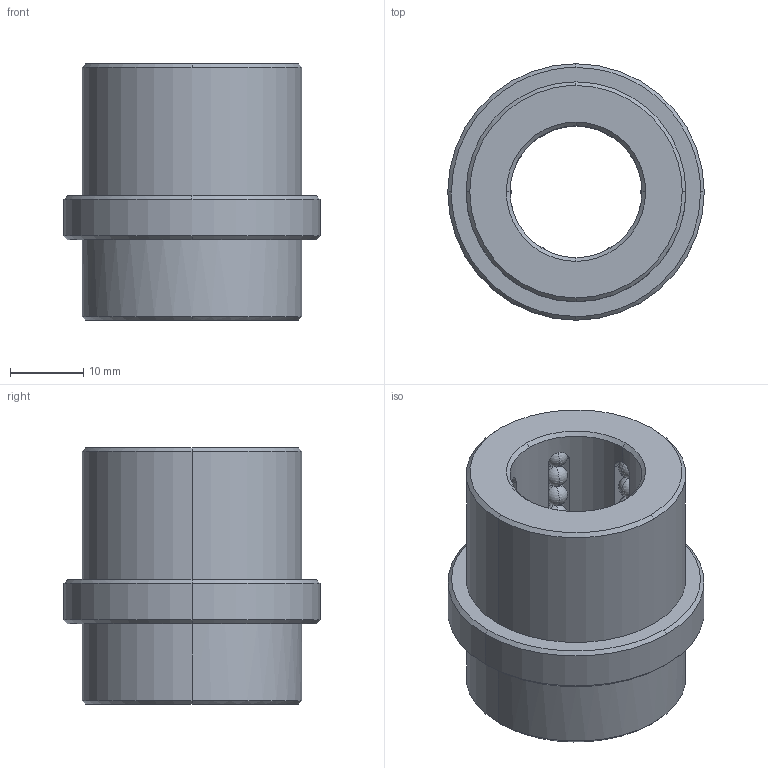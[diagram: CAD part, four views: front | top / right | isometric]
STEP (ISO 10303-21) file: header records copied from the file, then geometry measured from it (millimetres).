
FILE_DESCRIPTION(('CATIA V5 STEP Exchange'),'2;1');
FILE_NAME('C:\Users\Raffaele\Desktop\3D BOLEX\3D FILES CF BOLEX\5-BUSH REF 812\B8121835.stp','2019-06-20T11:57:57+00:00',('none'),('none'),'CATIA Version 5 Release 20 GA (IN-10)','CATIA V5 STEP AP203','none');
FILE_SCHEMA(('CONFIG_CONTROL_DESIGN'));
Length unit declared in the file: millimetre
Products named in the file (1): B8121835
Bounding box: 35 x 35 x 35 mm (x, y, z)
Volume: 16588 mm3; surface area: 9251.7 mm2
Topology: 55 solids, 55 shells, 282 faces, 810 edges, 212 vertices
Faces by surface type: sphere 216, cone 24, plane 22, cylinder 20
Entity records: 5860 total; most frequent: CARTESIAN_POINT 1295, DIRECTION 911, ORIENTED_EDGE 756, AXIS2_PLACEMENT_3D 548, EDGE_CURVE 378, EDGE_LOOP 290, ADVANCED_FACE 282, FACE_OUTER_BOUND 282
